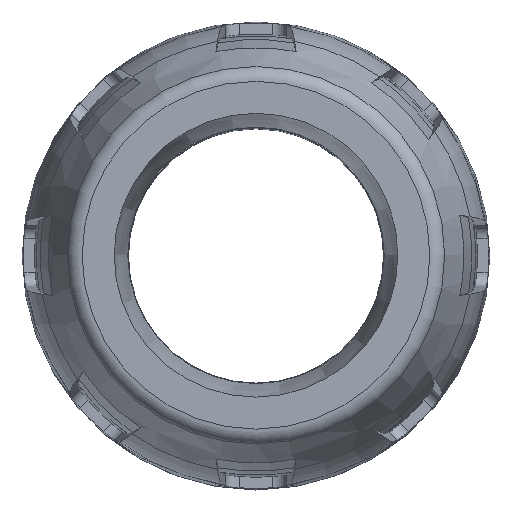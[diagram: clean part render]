
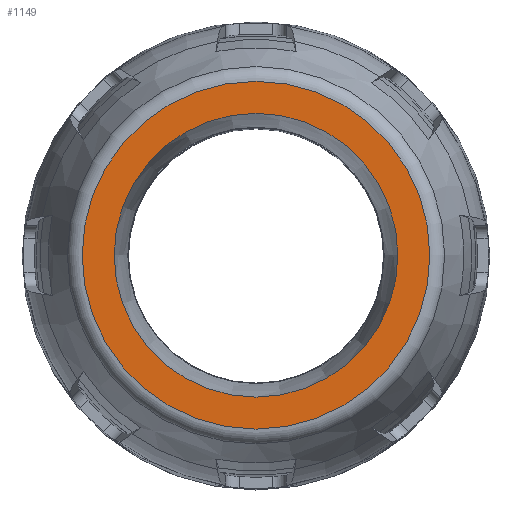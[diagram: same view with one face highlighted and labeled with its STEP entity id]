
A CAD part, top view. The second image highlights one B-rep face of the part: STEP entity #1149.
In plain terms, the highlighted planar face has unit normal (0, 0, 1).
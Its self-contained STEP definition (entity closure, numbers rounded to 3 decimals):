
#1149 = ADVANCED_FACE( '', ( #2426, #2427 ), #2428, .T. );
#2426 = FACE_OUTER_BOUND( '', #4287, .T. );
#2427 = FACE_BOUND( '', #4288, .T. );
#2428 = PLANE( '', #4289 );
#4287 = EDGE_LOOP( '', ( #7900 ) );
#4288 = EDGE_LOOP( '', ( #7901 ) );
#4289 = AXIS2_PLACEMENT_3D( '', #7902, #7903, #7904 );
#7900 = ORIENTED_EDGE( '', *, *, #9102, .F. );
#7901 = ORIENTED_EDGE( '', *, *, #9369, .F. );
#7902 = CARTESIAN_POINT( '', ( 22.627, 0., 21.918 ) );
#7903 = DIRECTION( '', ( 0., 0., 1. ) );
#7904 = DIRECTION( '', ( -1., 0., 0. ) );
#9102 = EDGE_CURVE( '', #10988, #10988, #10989, .T. );
#9369 = EDGE_CURVE( '', #11418, #11418, #11419, .T. );
#10988 = VERTEX_POINT( '', #14373 );
#10989 = CIRCLE( '', #14374, 27.727 );
#11418 = VERTEX_POINT( '', #15173 );
#11419 = CIRCLE( '', #15174, 22.627 );
#14373 = CARTESIAN_POINT( '', ( 27.727, 0., 21.918 ) );
#14374 = AXIS2_PLACEMENT_3D( '', #17920, #17921, #17922 );
#15173 = CARTESIAN_POINT( '', ( 22.627, 0., 21.918 ) );
#15174 = AXIS2_PLACEMENT_3D( '', #18203, #18204, #18205 );
#17920 = CARTESIAN_POINT( '', ( 0., 0., 21.918 ) );
#17921 = DIRECTION( '', ( 0., 0., -1. ) );
#17922 = DIRECTION( '', ( 1., 0., 0. ) );
#18203 = CARTESIAN_POINT( '', ( 0., 0., 21.918 ) );
#18204 = DIRECTION( '', ( 0., 0., 1. ) );
#18205 = DIRECTION( '', ( 1., 0., 0. ) );
